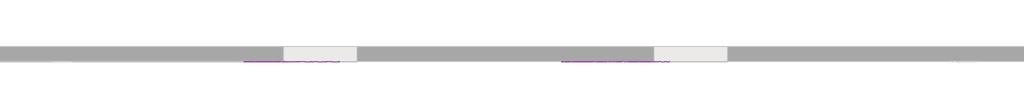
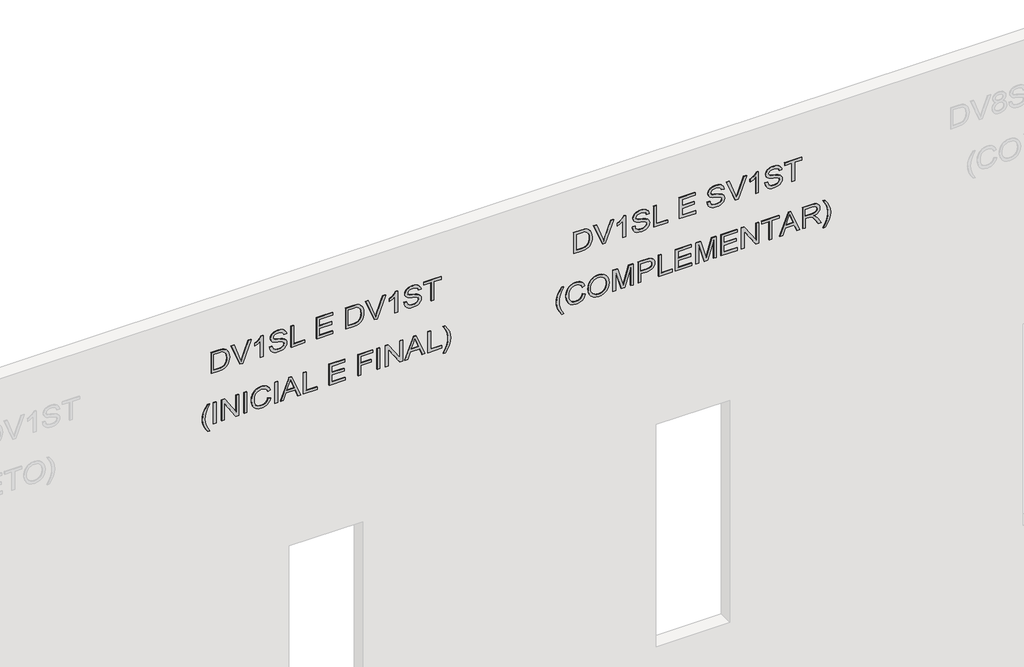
# One storey, part 2 of 4: 2 proxies.
"""IFC4 building model written with IfcOpenShell, lengths in millimetres."""

import ifcopenshell
import ifcopenshell.guid

model = None  # the IFC model being written
_history = None  # IfcOwnerHistory: only IFC2X3 demands one
_inside = {}  # id of a spatial element -> (the spatial element, [elements in it])
_under = {}  # id of a project, library or spatial element -> (it, [spatial elements below it])
_declared = {}  # id of a project -> (the project, [libraries it declares])
_typed = {}  # id of a type object -> (the type object, [elements of that type])
_made_of = {}  # id of a material, layer set ... -> (it, [elements and type objects made of it])


def new_model(schema):
    """Start an empty IFC model of exactly this schema.

    Asked for "IFC4X3", IfcOpenShell would pick the latest addendum, in which some entities
    have other attributes; the version numbers below select the first issue.
    IFC2X3 requires an IfcOwnerHistory on every rooted entity: one is made here for all.
    """
    global model, _history
    if schema == "IFC4X3":
        model = ifcopenshell.file(schema_version=(4, 3, 0, 0))
    else:
        model = ifcopenshell.file(schema=schema)
    _inside.clear()
    _under.clear()
    _declared.clear()
    _typed.clear()
    _made_of.clear()
    _history = None
    if model.schema == "IFC2X3":
        org = make("IfcOrganization", Name="unknown")
        user = make(
            "IfcPersonAndOrganization",
            ThePerson=make("IfcPerson", FamilyName="unknown"),
            TheOrganization=org,
        )
        app = make(
            "IfcApplication",
            ApplicationDeveloper=org,
            Version="unknown",
            ApplicationFullName="unknown",
            ApplicationIdentifier="unknown",
        )
        _history = make(
            "IfcOwnerHistory",
            OwningUser=user,
            OwningApplication=app,
            ChangeAction="ADDED",
            CreationDate=0,
        )
    return model


def make(cls, **values):
    """One entity of the class cls with the attributes given. An attribute that is None is left unset."""
    return model.create_entity(
        cls, **{name: value for name, value in values.items() if value is not None}
    )


def rooted(cls, **values):
    """An entity with a GlobalId (a new one), such as an element, a storey or a relation."""
    return make(cls, GlobalId=ifcopenshell.guid.new(), OwnerHistory=_history, **values)


def si_unit(unit_type, name, prefix=None):
    """IfcSIUnit, for example si_unit("LENGTHUNIT", "METRE", prefix="MILLI")."""
    return make("IfcSIUnit", UnitType=unit_type, Prefix=prefix, Name=name)


def assignment(units):
    """IfcUnitAssignment: the units of a project."""
    return None if units is None else make("IfcUnitAssignment", Units=units)


def point(xyz):
    """IfcCartesianPoint."""
    return None if xyz is None else make("IfcCartesianPoint", Coordinates=xyz)


def direction(xyz):
    """IfcDirection."""
    return None if xyz is None else make("IfcDirection", DirectionRatios=xyz)


def frame(location, z_axis=None, x_axis=None):
    """IfcAxis2Placement3D, a coordinate frame: its origin and axes. An axis left out is left unset."""
    return make(
        "IfcAxis2Placement3D",
        Location=point(location),
        Axis=direction(z_axis),
        RefDirection=direction(x_axis),
    )


def origin():
    """The frame at (0, 0, 0) with its axes left unset."""
    return frame((0.0, 0.0, 0.0))


def place(relative_to, where):
    """IfcLocalPlacement: puts the frame where relative to a parent placement (None: the world)."""
    return make(
        "IfcLocalPlacement", PlacementRelTo=relative_to, RelativePlacement=where
    )


def context(
    kind, dimensions, precision=None, world=None, true_north=None, identifier=None
):
    """IfcGeometricRepresentationContext, for example the 3D "Model" context."""
    return make(
        "IfcGeometricRepresentationContext",
        ContextIdentifier=identifier,
        ContextType=kind,
        CoordinateSpaceDimension=dimensions,
        Precision=precision,
        WorldCoordinateSystem=world,
        TrueNorth=true_north,
    )


def project(units=None, contexts=None):
    """IfcProject with its units and contexts."""
    return rooted(
        "IfcProject",
        Name="project",
        RepresentationContexts=contexts,
        UnitsInContext=assignment(units),
    )


def spatial(cls, under=None, at=None, **own):
    """A site, building, storey or space (cls), placed at a placement, below another one or the project."""
    s = rooted(cls, ObjectPlacement=at, **own)
    if under is not None:
        _under.setdefault(under.id(), (under, []))[1].append(s)
    return s


def polyline(points):
    """IfcPolyline through the points."""
    return make("IfcPolyline", Points=[point(p) for p in points])


def outline(outer, holes=None, kind="AREA"):
    """IfcArbitraryClosedProfileDef: a profile drawn as a closed curve; with holes, ...WithVoids."""
    if holes is None:
        return make("IfcArbitraryClosedProfileDef", ProfileType=kind, OuterCurve=outer)
    return make(
        "IfcArbitraryProfileDefWithVoids",
        ProfileType=kind,
        OuterCurve=outer,
        InnerCurves=holes,
    )


def extrude(swept, where, along, depth):
    """IfcExtrudedAreaSolid: the profile swept, set in the frame where, extruded along a direction by depth."""
    return make(
        "IfcExtrudedAreaSolid",
        SweptArea=swept,
        Position=where,
        ExtrudedDirection=direction(along),
        Depth=depth,
    )


def shape(context_of_items, identifier, shape_type, items):
    """IfcShapeRepresentation: the items that make up one representation, for example the "Body"."""
    return make(
        "IfcShapeRepresentation",
        ContextOfItems=context_of_items,
        RepresentationIdentifier=identifier,
        RepresentationType=shape_type,
        Items=items,
    )


def made_of(thing, what):
    """Note that an element or type object is made of a material, layer set ...; save() writes the relation."""
    if what is not None:
        _made_of.setdefault(what.id(), (what, []))[1].append(thing)
    return thing


def element(
    cls,
    number,
    at=None,
    inside=None,
    cuts=None,
    type_object=None,
    material=None,
    context=None,
    identifier="Body",
    shape_type=None,
    held_by="IfcProductDefinitionShape",
    body=None,
    shapes=None,
    **own,
):
    """One element of the class cls, such as IfcWall. Its Tag is "e" and its number.

    at: its placement. inside: the storey or other place that contains it. cuts: it is an
    opening in that element (IfcRelVoidsElement). A single representation is given by context,
    identifier, shape_type and body (its items); several are given by shapes. held_by: the class
    of the entity that holds the representations. save() writes the other relations.
    """
    e = rooted(cls, Tag="e%d" % number, ObjectPlacement=at, **own)
    if body is not None:
        shapes = [shape(context, identifier, shape_type, body)]
    if shapes is not None:
        e.Representation = make(held_by, Representations=shapes)
    if inside is not None:
        _inside.setdefault(inside.id(), (inside, []))[1].append(e)
    if cuts is not None:
        rooted(
            "IfcRelVoidsElement", RelatingBuildingElement=cuts, RelatedOpeningElement=e
        )
    if type_object is not None:
        _typed.setdefault(type_object.id(), (type_object, []))[1].append(e)
    return made_of(e, material)


def aggregate(whole, parts):
    """IfcRelAggregates: a whole, such as a stair, and the parts it consists of."""
    return rooted("IfcRelAggregates", RelatingObject=whole, RelatedObjects=parts)


def save(model, path):
    """Write the relations noted so far, then the file.

    IfcRelAggregates (storeys below a building ...), IfcRelContainedInSpatialStructure (elements
    in a storey), IfcRelDefinesByType, IfcRelAssociatesMaterial and IfcRelDeclares: one each for
    every whole, place, type object, material and project.
    """
    for whole, parts in _under.values():
        aggregate(whole, parts)
    for where, things in _inside.values():
        rooted(
            "IfcRelContainedInSpatialStructure",
            RelatedElements=things,
            RelatingStructure=where,
        )
    for kind, things in _typed.values():
        rooted("IfcRelDefinesByType", RelatedObjects=things, RelatingType=kind)
    for what, things in _made_of.values():
        rooted("IfcRelAssociatesMaterial", RelatedObjects=things, RelatingMaterial=what)
    for by, libraries in _declared.values():
        rooted("IfcRelDeclares", RelatingContext=by, RelatedDefinitions=libraries)
    model.write(path)


model = new_model("IFC4")

# Units and contexts
model_context = context("Model", 3, world=origin())
ifc_project = project(units=[si_unit("LENGTHUNIT", "METRE", prefix="MILLI")], contexts=[model_context])

# Site, building, storey
site = spatial("IfcSite", under=ifc_project)
building = spatial("IfcBuilding", under=site)
storey = spatial("IfcBuildingStorey", under=building, Name="01 - Marelli - Planta Baixa - Painel Simples", Elevation=0.0)

# Proxies
placement = place(None, origin())
element("IfcBuildingElementProxy", 1, Name="300mm Arial", ObjectType="300mm Arial", at=placement, inside=storey, context=model_context, shape_type="SweptSolid", body=[
    extrude(outline(polyline([(6065.9244535, 7245.7423947), (6065.9244535, 7354.7090417), (6071.0748015, 7403.1591004), (6077.4299629, 7422.7028314), (6086.1947515, 7439.1747477), (6098.0129606, 7453.5221456), (6113.5283837, 7466.692321), (6133.1824793, 7478.133451), (6157.4167057, 7487.2937127), (6185.8815751, 7493.3085833), (6218.2275995, 7495.3135402), (6256.303386, 7492.3520901), (6289.8910122, 7483.46774), (6318.438655, 7468.6237015), (6341.3944915, 7447.7831864), (6354.5830611, 7427.5128885), (6362.9523764, 7403.4901942), (6367.293384, 7349.7058465), (6367.293384, 7245.7423947), (6065.9244535, 7245.7423947)]), holes=[polyline([(6103.5955698, 7283.413511), (6329.6222677, 7283.413511), (6329.6222677, 7349.0436589), (6328.1139515, 7380.7918751), (6323.589003, 7402.4601246), (6311.0074387, 7423.7512951), (6290.1853178, 7441.5659807), (6259.8718414, 7453.6233131), (6218.8162107, 7457.6424239), (6187.8313497, 7455.5914818), (6161.8312897, 7449.4386554), (6140.7240602, 7439.6070091), (6124.4176908, 7426.5196071), (6115.606917, 7414.3427131), (6109.0402234, 7398.5605755), (6104.9567332, 7377.6464841), (6103.5955698, 7350.0737285), (6103.5955698, 7283.413511)])]), frame((0.0, 8778.3159498, 0.0), z_axis=(0.0, 1.0, 0.0), x_axis=(0.0, 0.0, 1.0)), (0.0, 0.0, 1.0), 10.0),
    extrude(outline(polyline([(6065.9244535, 7636.138768), (6065.9244535, 7675.0606831), (6367.293384, 7789.9134419), (6367.293384, 7749.5935753), (6150.1694304, 7669.1009947), (6101.2411251, 7653.0613397), (6150.1694304, 7636.8009556), (6367.293384, 7556.5291042), (6367.293384, 7516.2092375), (6065.9244535, 7636.138768)])), frame((0.0, 8778.3159498, 0.0), z_axis=(0.0, 1.0, 0.0), x_axis=(0.0, 0.0, 1.0)), (0.0, 0.0, 1.0), 10.0),
    extrude(outline(polyline([(6065.9244535, 7952.0758254), (6367.293384, 7952.0758254), (6367.293384, 7927.7956137), (6347.5565149, 7914.4874826), (6327.1942465, 7894.281564), (6308.0459887, 7868.649386), (6291.9511514, 7839.0624765), (6256.3401742, 7839.0624765), (6275.3596734, 7878.7201556), (6300.7803193, 7914.4047091), (6065.9244535, 7914.4047091), (6065.9244535, 7952.0758254)])), frame((0.0, 8778.3159498, 0.0), z_axis=(0.0, 1.0, 0.0), x_axis=(0.0, 0.0, 1.0)), (0.0, 0.0, 1.0), 10.0),
    extrude(outline(polyline([(6169.5200234, 8041.5447266), (6139.0961824, 8046.0144929), (6111.9832793, 8057.8051108), (6089.7264186, 8076.1716194), (6073.8707046, 8100.3690577), (6064.3793492, 8130.7469134), (6061.215564, 8167.6546746), (6064.1494229, 8197.7198307), (6072.9509996, 8224.6395956), (6087.0408801, 8247.0252151), (6105.83965, 8263.4879343), (6127.6826435, 8273.6138863), (6150.9051944, 8276.9892036), (6173.6219076, 8274.0553447), (6193.5059295, 8265.2537679), (6210.3733189, 8250.2717737), (6224.0401351, 8228.7966622), (6232.8509088, 8203.6703219), (6242.9492696, 8162.1364447), (6253.5810593, 8121.8901544), (6263.9921197, 8100.6265751), (6275.6355849, 8091.6318603), (6290.1117414, 8088.633622), (6307.0894955, 8092.864265), (6321.381711, 8105.5561938), (6331.0937957, 8127.5003548), (6334.3311572, 8159.4876943), (6331.0570075, 8190.7392698), (6321.2345582, 8213.272042), (6305.0109622, 8227.6930162), (6282.5333723, 8234.6091977), (6282.5333723, 8272.280314), (6307.4941657, 8268.031277), (6329.6958441, 8257.344305), (6347.9979733, 8240.4585214), (6361.2601193, 8217.6130495), (6369.316735, 8189.8011707), (6372.0022735, 8158.0161663), (6369.4362966, 8128.6775772), (6361.7383659, 8102.1716795), (6349.0832252, 8080.0895627), (6331.6456187, 8064.0223166), (6311.0718181, 8054.2274584), (6289.0080954, 8050.9625057), (6269.2712264, 8053.602059), (6251.5577083, 8061.520719), (6236.198635, 8074.8104561), (6223.5251003, 8093.5632408), (6214.4660061, 8116.6018507), (6204.9470595, 8152.608301), (6190.5628735, 8207.4595065), (6182.7545782, 8223.5359497), (6173.4563607, 8233.0640933), (6162.5578566, 8237.7545888), (6149.9487012, 8239.3180873), (6137.0084521, 8237.2303569), (6124.6752082, 8230.967166), (6113.9330539, 8220.4365439), (6105.7660736, 8205.5465201), (6100.6065286, 8187.1708144), (6098.8866803, 8166.1831466), (6101.1583516, 8142.3443933), (6107.9733656, 8121.0072376), (6118.4763965, 8103.5512369), (6131.8121189, 8091.3559488), (6148.615129, 8083.5384564), (6169.5200234, 8079.215843), (6169.5200234, 8041.5447266)])), frame((0.0, 8778.3159498, 0.0), z_axis=(0.0, 1.0, 0.0), x_axis=(0.0, 0.0, 1.0)), (0.0, 0.0, 1.0), 10.0),
    extrude(outline(polyline([(6065.9244535, 8333.495878), (6065.9244535, 8521.8514596), (6103.5955698, 8521.8514596), (6103.5955698, 8371.1669943), (6367.293384, 8371.1669943), (6367.293384, 8333.495878), (6065.9244535, 8333.495878)])), frame((0.0, 8778.3159498, 0.0), z_axis=(0.0, 1.0, 0.0), x_axis=(0.0, 0.0, 1.0)), (0.0, 0.0, 1.0), 10.0),
    extrude(outline(polyline([(6065.9244535, 8681.9537039), (6065.9244535, 8903.2715122), (6103.5955698, 8903.2715122), (6103.5955698, 8719.6248202), (6202.4822501, 8719.6248202), (6202.4822501, 8889.1448435), (6240.1533665, 8889.1448435), (6240.1533665, 8719.6248202), (6329.6222677, 8719.6248202), (6329.6222677, 8898.5626226), (6367.293384, 8898.5626226), (6367.293384, 8681.9537039), (6065.9244535, 8681.9537039)])), frame((0.0, 8778.3159498, 0.0), z_axis=(0.0, 1.0, 0.0), x_axis=(0.0, 0.0, 1.0)), (0.0, 0.0, 1.0), 10.0),
    extrude(outline(polyline([(6169.5200234, 9063.3737565), (6139.0961824, 9067.8435227), (6111.9832793, 9079.6341406), (6089.7264186, 9098.0006492), (6073.8707046, 9122.1980875), (6064.3793492, 9152.5759432), (6061.215564, 9189.4837044), (6064.1494229, 9219.5488605), (6072.9509996, 9246.4686255), (6087.0408801, 9268.8542449), (6105.83965, 9285.3169641), (6127.6826435, 9295.4429161), (6150.9051944, 9298.8182334), (6173.6219076, 9295.8843745), (6193.5059295, 9287.0827977), (6210.3733189, 9272.1008035), (6224.0401351, 9250.625692), (6232.8509088, 9225.4993517), (6242.9492696, 9183.9654745), (6253.5810593, 9143.7191842), (6263.9921197, 9122.4556049), (6275.6355849, 9113.4608901), (6290.1117414, 9110.4626518), (6307.0894955, 9114.6932948), (6321.381711, 9127.3852236), (6331.0937957, 9149.3293846), (6334.3311572, 9181.3167241), (6331.0570075, 9212.5682996), (6321.2345582, 9235.1010718), (6305.0109622, 9249.522046), (6282.5333723, 9256.4382275), (6282.5333723, 9294.1093438), (6307.4941657, 9289.8603068), (6329.6958441, 9279.1733348), (6347.9979733, 9262.2875512), (6361.2601193, 9239.4420793), (6369.316735, 9211.6302005), (6372.0022735, 9179.8451961), (6369.4362966, 9150.506607), (6361.7383659, 9124.0007093), (6349.0832252, 9101.9185925), (6331.6456187, 9085.8513464), (6311.0718181, 9076.0564882), (6289.0080954, 9072.7915355), (6269.2712264, 9075.4310888), (6251.5577083, 9083.3497488), (6236.198635, 9096.6394859), (6223.5251003, 9115.3922706), (6214.4660061, 9138.4308805), (6204.9470595, 9174.4373308), (6190.5628735, 9229.2885363), (6182.7545782, 9245.3649795), (6173.4563607, 9254.8931231), (6162.5578566, 9259.5836186), (6149.9487012, 9261.1471171), (6137.0084521, 9259.0593867), (6124.6752082, 9252.7961958), (6113.9330539, 9242.2655737), (6105.7660736, 9227.3755499), (6100.6065286, 9208.9998442), (6098.8866803, 9188.0121764), (6101.1583516, 9164.1734231), (6107.9733656, 9142.8362674), (6118.4763965, 9125.3802667), (6131.8121189, 9113.1849786), (6148.615129, 9105.3674862), (6169.5200234, 9101.0448728), (6169.5200234, 9063.3737565)])), frame((0.0, 8778.3159498, 0.0), z_axis=(0.0, 1.0, 0.0), x_axis=(0.0, 0.0, 1.0)), (0.0, 0.0, 1.0), 10.0),
    extrude(outline(polyline([(6065.9244535, 9444.3523507), (6065.9244535, 9483.2742657), (6367.293384, 9598.1270246), (6367.293384, 9557.807158), (6150.1694304, 9477.3145774), (6101.2411251, 9461.2749224), (6150.1694304, 9445.0145382), (6367.293384, 9364.7426869), (6367.293384, 9324.4228202), (6065.9244535, 9444.3523507)])), frame((0.0, 8778.3159498, 0.0), z_axis=(0.0, 1.0, 0.0), x_axis=(0.0, 0.0, 1.0)), (0.0, 0.0, 1.0), 10.0),
    extrude(outline(polyline([(6065.9244535, 9760.2894081), (6367.293384, 9760.2894081), (6367.293384, 9736.0091964), (6347.5565149, 9722.7010653), (6327.1942465, 9702.4951467), (6308.0459887, 9676.8629687), (6291.9511514, 9647.2760592), (6256.3401742, 9647.2760592), (6275.3596734, 9686.9337383), (6300.7803193, 9722.6182918), (6065.9244535, 9722.6182918), (6065.9244535, 9760.2894081)])), frame((0.0, 8778.3159498, 0.0), z_axis=(0.0, 1.0, 0.0), x_axis=(0.0, 0.0, 1.0)), (0.0, 0.0, 1.0), 10.0),
    extrude(outline(polyline([(6169.5200234, 9849.7583093), (6139.0961824, 9854.2280756), (6111.9832793, 9866.0186935), (6089.7264186, 9884.3852021), (6073.8707046, 9908.5826404), (6064.3793492, 9938.9604961), (6061.215564, 9975.8682573), (6064.1494229, 10005.9334133), (6072.9509996, 10032.8531783), (6087.0408801, 10055.2387977), (6105.83965, 10071.701517), (6127.6826435, 10081.8274689), (6150.9051944, 10085.2027863), (6173.6219076, 10082.2689273), (6193.5059295, 10073.4673506), (6210.3733189, 10058.4853564), (6224.0401351, 10037.0102449), (6232.8509088, 10011.8839046), (6242.9492696, 9970.3500274), (6253.5810593, 9930.1037371), (6263.9921197, 9908.8401578), (6275.6355849, 9899.845443), (6290.1117414, 9896.8472047), (6307.0894955, 9901.0778477), (6321.381711, 9913.7697765), (6331.0937957, 9935.7139375), (6334.3311572, 9967.701277), (6331.0570075, 9998.9528525), (6321.2345582, 10021.4856247), (6305.0109622, 10035.9065989), (6282.5333723, 10042.8227804), (6282.5333723, 10080.4938967), (6307.4941657, 10076.2448597), (6329.6958441, 10065.5578877), (6347.9979733, 10048.6721041), (6361.2601193, 10025.8266322), (6369.316735, 9998.0147534), (6372.0022735, 9966.229749), (6369.4362966, 9936.8911599), (6361.7383659, 9910.3852621), (6349.0832252, 9888.3031454), (6331.6456187, 9872.2358992), (6311.0718181, 9862.4410411), (6289.0080954, 9859.1760884), (6269.2712264, 9861.8156417), (6251.5577083, 9869.7343017), (6236.198635, 9883.0240388), (6223.5251003, 9901.7768235), (6214.4660061, 9924.8154334), (6204.9470595, 9960.8218837), (6190.5628735, 10015.6730892), (6182.7545782, 10031.7495324), (6173.4563607, 10041.277676), (6162.5578566, 10045.9681715), (6149.9487012, 10047.5316699), (6137.0084521, 10045.4439396), (6124.6752082, 10039.1807487), (6113.9330539, 10028.6501265), (6105.7660736, 10013.7601028), (6100.6065286, 9995.3843971), (6098.8866803, 9974.3967293), (6101.1583516, 9950.557976), (6107.9733656, 9929.2208203), (6118.4763965, 9911.7648196), (6131.8121189, 9899.5695315), (6148.615129, 9891.7520391), (6169.5200234, 9887.4294256), (6169.5200234, 9849.7583093)])), frame((0.0, 8778.3159498, 0.0), z_axis=(0.0, 1.0, 0.0), x_axis=(0.0, 0.0, 1.0)), (0.0, 0.0, 1.0), 10.0),
    extrude(outline(polyline([(6065.9244535, 10217.0516933), (6065.9244535, 10254.7228096), (6329.6222677, 10254.7228096), (6329.6222677, 10353.6094899), (6367.293384, 10353.6094899), (6367.293384, 10118.165013), (6329.6222677, 10118.165013), (6329.6222677, 10217.0516933), (6065.9244535, 10217.0516933)])), frame((0.0, 8778.3159498, 0.0), z_axis=(0.0, 1.0, 0.0), x_axis=(0.0, 0.0, 1.0)), (0.0, 0.0, 1.0), 10.0),
    extrude(outline(polyline([(5249.3155348, 7080.9312608), (5249.3155348, 7109.1845981), (5297.5540614, 7080.3426497), (5345.8109821, 7059.7412579), (5394.0862969, 7047.3804229), (5442.3800058, 7043.2601445), (5480.2534572, 7045.6329834), (5517.9429677, 7052.7515), (5575.7740173, 7073.9415029), (5635.4444769, 7109.1845981), (5635.4444769, 7080.9312608), (5584.934279, 7046.2399887), (5534.2033518, 7021.9229888), (5489.4137189, 7009.6725184), (5442.600735, 7005.5890282), (5389.2210575, 7011.0520759), (5337.68079, 7027.4412187), (5290.2791949, 7051.7398245), (5249.3155348, 7080.9312608)])), frame((0.0, 8778.3159498, 0.0), z_axis=(0.0, 1.0, 0.0), x_axis=(0.0, 0.0, 1.0)), (0.0, 0.0, 1.0), 10.0),
    extrude(outline(polyline([(5441.2027835, 7363.4646331), (5408.9395325, 7351.278542), (5385.7261786, 7331.4956878), (5371.7098746, 7305.2932927), (5367.0377732, 7273.8485791), (5370.4682728, 7246.8736318), (5380.7597717, 7221.8668532), (5397.9858461, 7201.0079441), (5422.2200725, 7186.4766053), (5452.3128197, 7177.95094), (5487.1144565, 7175.1090516), (5515.5333406, 7177.5094816), (5543.1060961, 7184.7107717), (5567.4966724, 7197.8349619), (5586.3690188, 7218.0040922), (5598.4539423, 7244.5835664), (5602.4822501, 7276.9387879), (5598.8494154, 7305.0081841), (5587.9509113, 7327.853656), (5569.1061561, 7345.6959328), (5541.6345681, 7358.7557436), (5550.6108888, 7396.4268599), (5588.4291579, 7379.7893967), (5603.751443, 7367.9872824), (5616.6824952, 7353.8629131), (5626.9510013, 7337.6830031), (5634.2856486, 7319.7142669), (5640.1533665, 7278.4103159), (5635.6192209, 7240.5552586), (5622.0167841, 7206.0111392), (5599.6771499, 7176.8840822), (5568.9314122, 7155.2802121), (5530.9843844, 7141.8985045), (5487.0408801, 7137.4379353), (5445.3782441, 7141.3834697), (5406.4747231, 7153.2200729), (5373.3837376, 7172.607454), (5349.1587083, 7199.2053223), (5334.3146698, 7233.9057915), (5329.3666569, 7277.6009755), (5331.0014325, 7300.0233831), (5335.9057594, 7320.6431689), (5344.0796375, 7339.460333), (5355.5230668, 7356.4748752), (5370.0796975, 7371.3511034), (5387.5931797, 7383.7533252), (5408.0635135, 7393.6815405), (5431.4906988, 7401.1357494), (5441.2027835, 7363.4646331)])), frame((0.0, 8778.3159498, 0.0), z_axis=(0.0, 1.0, 0.0), x_axis=(0.0, 0.0, 1.0)), (0.0, 0.0, 1.0), 10.0),
    extrude(outline(polyline([(5480.7868861, 7438.8068658), (5442.2420501, 7443.1110851), (5405.7757473, 7456.0237431), (5374.0827134, 7477.2873224), (5349.8576841, 7506.6443057), (5334.4894137, 7542.292071), (5329.3666569, 7582.4279967), (5334.0019701, 7620.2370687), (5347.9079095, 7655.3789963), (5370.8269578, 7685.3429848), (5402.5015976, 7707.6182396), (5440.9636602, 7721.4414056), (5484.2449769, 7726.0491276), (5526.9560765, 7721.6713318), (5564.8847102, 7708.5379446), (5596.5041677, 7687.0536361), (5620.2877387, 7657.6230765), (5635.1869595, 7622.1776462), (5640.1533665, 7582.6487259), (5637.5092146, 7552.3582421), (5629.5767591, 7524.9832231), (5616.3559999, 7500.523669), (5597.846937, 7478.9795796), (5574.6657728, 7461.4040173), (5547.4287096, 7448.8500442), (5516.1357474, 7441.3176604), (5480.7868861, 7438.8068658)]), holes=[polyline([(5480.4190041, 7476.4779821), (5510.955509, 7478.4415522), (5536.7877229, 7484.3322627), (5557.9156457, 7494.1501134), (5574.3392775, 7507.8951044), (5586.651828, 7524.3624223), (5595.446507, 7542.3472533), (5600.7233144, 7561.8495976), (5602.4822501, 7582.8694551), (5598.8310213, 7612.0333002), (5587.8773349, 7638.1621189), (5570.2833785, 7659.8211714), (5546.7113397, 7675.5757178), (5517.8877854, 7685.1774379), (5484.5392825, 7688.3780113), (5458.0011951, 7686.5087109), (5434.672878, 7680.9008097), (5414.5543314, 7671.5543078), (5397.6455552, 7658.4692051), (5384.2546506, 7642.4870316), (5374.6897187, 7624.4493176), (5368.9507596, 7604.3560628), (5367.0377732, 7582.2072675), (5368.9323655, 7560.4309526), (5374.6161423, 7540.5722227), (5384.0891037, 7522.6310776), (5397.3512496, 7506.6075175), (5413.9105379, 7493.4258457), (5433.2749265, 7484.0103659), (5455.4444152, 7478.361078), (5480.4190041, 7476.4779821)])]), frame((0.0, 8778.3159498, 0.0), z_axis=(0.0, 1.0, 0.0), x_axis=(0.0, 0.0, 1.0)), (0.0, 0.0, 1.0), 10.0),
    extrude(outline(polyline([(5334.0755465, 7777.8469125), (5334.0755465, 7815.5180288), (5597.7733606, 7815.5180288), (5334.0755465, 7891.2281434), (5334.0755465, 7942.2901644), (5597.7733606, 8018.000279), (5334.0755465, 8018.000279), (5334.0755465, 8055.6713953), (5635.4444769, 8055.6713953), (5635.4444769, 7990.8505877), (5426.7082328, 7930.2236349), (5378.6628443, 7916.7591539), (5423.0294129, 7904.3247424), (5635.4444769, 7842.6677201), (5635.4444769, 7777.8469125), (5334.0755465, 7777.8469125)])), frame((0.0, 8778.3159498, 0.0), z_axis=(0.0, 1.0, 0.0), x_axis=(0.0, 0.0, 1.0)), (0.0, 0.0, 1.0), 10.0),
    extrude(outline(polyline([(5334.0755465, 8121.5958488), (5334.0755465, 8159.2669651), (5456.5066745, 8159.2669651), (5456.5066745, 8235.8599965), (5458.1713405, 8265.0583306), (5463.1653386, 8289.3776298), (5471.4886687, 8308.8178939), (5483.1413309, 8323.3791232), (5497.1990217, 8333.9856209), (5512.7374374, 8341.5616908), (5529.7565782, 8346.1073327), (5548.2564441, 8347.6225466), (5569.7131614, 8345.3784665), (5589.3488629, 8338.646226), (5605.9955232, 8328.2259684), (5618.4851169, 8314.9178373), (5627.2131173, 8298.3907386), (5632.5749974, 8278.3135787), (5635.4444769, 8233.2848225), (5635.4444769, 8121.5958488), (5334.0755465, 8121.5958488)]), holes=[polyline([(5494.1777908, 8159.2669651), (5597.7733606, 8159.2669651), (5597.7733606, 8237.1843717), (5595.1981866, 8274.855488), (5588.8706163, 8289.0833242), (5578.1284621, 8300.2761339), (5563.8546407, 8307.5326062), (5546.9320689, 8309.9514303), (5524.6568141, 8305.8495461), (5508.0101538, 8293.5438933), (5497.6358815, 8271.4709736), (5494.1777908, 8238.0672885), (5494.1777908, 8159.2669651)])]), frame((0.0, 8778.3159498, 0.0), z_axis=(0.0, 1.0, 0.0), x_axis=(0.0, 0.0, 1.0)), (0.0, 0.0, 1.0), 10.0),
    extrude(outline(polyline([(5334.0755465, 8399.4203316), (5334.0755465, 8587.7759131), (5371.7466628, 8587.7759131), (5371.7466628, 8437.0914479), (5635.4444769, 8437.0914479), (5635.4444769, 8399.4203316), (5334.0755465, 8399.4203316)])), frame((0.0, 8778.3159498, 0.0), z_axis=(0.0, 1.0, 0.0), x_axis=(0.0, 0.0, 1.0)), (0.0, 0.0, 1.0), 10.0),
    extrude(outline(polyline([(5334.0755465, 8630.1559189), (5334.0755465, 8851.4737272), (5371.7466628, 8851.4737272), (5371.7466628, 8667.8270352), (5470.6333431, 8667.8270352), (5470.6333431, 8837.3470586), (5508.3044594, 8837.3470586), (5508.3044594, 8667.8270352), (5597.7733606, 8667.8270352), (5597.7733606, 8846.7648377), (5635.4444769, 8846.7648377), (5635.4444769, 8630.1559189), (5334.0755465, 8630.1559189)])), frame((0.0, 8778.3159498, 0.0), z_axis=(0.0, 1.0, 0.0), x_axis=(0.0, 0.0, 1.0)), (0.0, 0.0, 1.0), 10.0),
    extrude(outline(polyline([(5334.0755465, 8907.9804017), (5334.0755465, 8945.651518), (5597.7733606, 8945.651518), (5334.0755465, 9021.3616326), (5334.0755465, 9072.4236535), (5597.7733606, 9148.1337681), (5334.0755465, 9148.1337681), (5334.0755465, 9185.8048844), (5635.4444769, 9185.8048844), (5635.4444769, 9120.9840769), (5426.7082328, 9060.3571241), (5378.6628443, 9046.8926431), (5423.0294129, 9034.4582316), (5635.4444769, 8972.8012092), (5635.4444769, 8907.9804017), (5334.0755465, 8907.9804017)])), frame((0.0, 8778.3159498, 0.0), z_axis=(0.0, 1.0, 0.0), x_axis=(0.0, 0.0, 1.0)), (0.0, 0.0, 1.0), 10.0),
    extrude(outline(polyline([(5334.0755465, 9251.729338), (5334.0755465, 9473.0471463), (5371.7466628, 9473.0471463), (5371.7466628, 9289.4004543), (5470.6333431, 9289.4004543), (5470.6333431, 9458.9204777), (5508.3044594, 9458.9204777), (5508.3044594, 9289.4004543), (5597.7733606, 9289.4004543), (5597.7733606, 9468.3382567), (5635.4444769, 9468.3382567), (5635.4444769, 9251.729338), (5334.0755465, 9251.729338)])), frame((0.0, 8778.3159498, 0.0), z_axis=(0.0, 1.0, 0.0), x_axis=(0.0, 0.0, 1.0)), (0.0, 0.0, 1.0), 10.0),
    extrude(outline(polyline([(5334.0755465, 9529.5538207), (5334.0755465, 9567.224937), (5572.9045377, 9567.224937), (5334.0755465, 9724.678431), (5334.0755465, 9764.9982977), (5635.4444769, 9764.9982977), (5635.4444769, 9727.3271813), (5396.689062, 9727.3271813), (5635.4444769, 9569.8736874), (5635.4444769, 9529.5538207), (5334.0755465, 9529.5538207)])), frame((0.0, 8778.3159498, 0.0), z_axis=(0.0, 1.0, 0.0), x_axis=(0.0, 0.0, 1.0)), (0.0, 0.0, 1.0), 10.0),
    extrude(outline(polyline([(5334.0755465, 9906.2649838), (5334.0755465, 9943.9361001), (5597.7733606, 9943.9361001), (5597.7733606, 10042.8227804), (5635.4444769, 10042.8227804), (5635.4444769, 9807.3783035), (5597.7733606, 9807.3783035), (5597.7733606, 9906.2649838), (5334.0755465, 9906.2649838)])), frame((0.0, 8778.3159498, 0.0), z_axis=(0.0, 1.0, 0.0), x_axis=(0.0, 0.0, 1.0)), (0.0, 0.0, 1.0), 10.0),
    extrude(outline(polyline([(5334.0755465, 10050.1068439), (5334.0755465, 10089.9116758), (5428.2533372, 10124.3454305), (5428.2533372, 10248.4688157), (5334.0755465, 10282.9761469), (5334.0755465, 10322.7809787), (5635.4444769, 10202.4835663), (5635.4444769, 10170.4042563), (5334.0755465, 10050.1068439)]), holes=[polyline([(5465.9244535, 10138.1777936), (5546.4906105, 10167.6819296), (5597.7733606, 10186.4439113), (5540.0158874, 10207.5603379), (5465.9244535, 10234.7100291), (5465.9244535, 10138.1777936)])]), frame((0.0, 8778.3159498, 0.0), z_axis=(0.0, 1.0, 0.0), x_axis=(0.0, 0.0, 1.0)), (0.0, 0.0, 1.0), 10.0),
    extrude(outline(polyline([(5334.0755465, 10363.027269), (5334.0755465, 10400.6983853), (5465.9244535, 10400.6983853), (5465.9244535, 10446.1685999), (5464.6000784, 10468.0207904), (5457.4263794, 10485.9366436), (5437.8918455, 10505.8390595), (5396.5419092, 10534.1659732), (5334.0755465, 10573.3821939), (5334.0755465, 10617.1601513), (5415.7453494, 10566.9074707), (5454.5201117, 10536.3732651), (5470.6333431, 10514.962533), (5480.6213392, 10552.0726293), (5488.6365682, 10566.454516), (5498.6659511, 10578.0542952), (5523.2772566, 10593.3673832), (5552.9653336, 10598.4717459), (5576.831678, 10595.3907342), (5598.5459128, 10586.1476991), (5616.0570958, 10571.745119), (5627.3142848, 10553.1854723), (5633.4119289, 10527.7924176), (5635.4444769, 10492.8896133), (5635.4444769, 10363.027269), (5334.0755465, 10363.027269)]), holes=[polyline([(5503.5955698, 10400.6983853), (5597.7733606, 10400.6983853), (5597.7733606, 10494.5082941), (5594.5176049, 10524.3159327), (5584.750338, 10544.8713392), (5569.9430877, 10556.818307), (5551.567382, 10560.8006296), (5538.2592508, 10558.7128993), (5525.9995833, 10552.4497083), (5515.8644344, 10542.1674066), (5508.9298588, 10528.0223438), (5504.9291421, 10509.2327709), (5503.5955698, 10485.0169386), (5503.5955698, 10400.6983853)])]), frame((0.0, 8778.3159498, 0.0), z_axis=(0.0, 1.0, 0.0), x_axis=(0.0, 0.0, 1.0)), (0.0, 0.0, 1.0), 10.0),
    extrude(outline(polyline([(5249.3155348, 10669.105089), (5290.2791949, 10698.1585696), (5337.68079, 10722.4847665), (5389.2210575, 10738.9566828), (5442.600735, 10744.4473216), (5489.4137189, 10740.3638315), (5534.2033518, 10728.113361), (5584.934279, 10703.7963611), (5635.4444769, 10669.105089), (5635.4444769, 10640.8517518), (5575.1854061, 10676.3155761), (5546.8400984, 10688.290135), (5517.2807801, 10697.2848498), (5479.9775458, 10704.4033664), (5442.3800058, 10706.7762053), (5394.0862969, 10702.655927), (5345.8109821, 10690.2950919), (5297.5540614, 10669.6937002), (5249.3155348, 10640.8517518), (5249.3155348, 10669.105089)])), frame((0.0, 8778.3159498, 0.0), z_axis=(0.0, 1.0, 0.0), x_axis=(0.0, 0.0, 1.0)), (0.0, 0.0, 1.0), 10.0),
])
element("IfcBuildingElementProxy", 2, Name="300mm Arial", ObjectType="300mm Arial", at=placement, inside=storey, context=model_context, shape_type="SweptSolid", body=[
    extrude(outline(polyline([(6065.9244535, 2304.6035139), (6065.9244535, 2413.5701609), (6071.0748015, 2462.0202196), (6077.4299629, 2481.5639506), (6086.1947515, 2498.035867), (6098.0129606, 2512.3832648), (6113.5283837, 2525.5534402), (6133.1824793, 2536.9945703), (6157.4167057, 2546.1548319), (6185.8815751, 2552.1697026), (6218.2275995, 2554.1746594), (6256.303386, 2551.2132094), (6289.8910122, 2542.3288592), (6318.438655, 2527.4848207), (6341.3944915, 2506.6443057), (6354.5830611, 2486.3740077), (6362.9523764, 2462.3513134), (6367.293384, 2408.5669657), (6367.293384, 2304.6035139), (6065.9244535, 2304.6035139)]), holes=[polyline([(6103.5955698, 2342.2746302), (6329.6222677, 2342.2746302), (6329.6222677, 2407.9047782), (6328.1139515, 2439.6529943), (6323.589003, 2461.3212439), (6311.0074387, 2482.6124143), (6290.1853178, 2500.4270999), (6259.8718414, 2512.4844323), (6218.8162107, 2516.5035431), (6187.8313497, 2514.452601), (6161.8312897, 2508.2997746), (6140.7240602, 2498.4681283), (6124.4176908, 2485.3807263), (6115.606917, 2473.2038323), (6109.0402234, 2457.4216947), (6104.9567332, 2436.5076033), (6103.5955698, 2408.9348477), (6103.5955698, 2342.2746302)])]), frame((0.0, 8778.3159498, 0.0), z_axis=(0.0, 1.0, 0.0), x_axis=(0.0, 0.0, 1.0)), (0.0, 0.0, 1.0), 10.0),
    extrude(outline(polyline([(6065.9244535, 2694.9998872), (6065.9244535, 2733.9218023), (6367.293384, 2848.7745612), (6367.293384, 2808.4546945), (6150.1694304, 2727.962114), (6101.2411251, 2711.922459), (6150.1694304, 2695.6620748), (6367.293384, 2615.3902234), (6367.293384, 2575.0703568), (6065.9244535, 2694.9998872)])), frame((0.0, 8778.3159498, 0.0), z_axis=(0.0, 1.0, 0.0), x_axis=(0.0, 0.0, 1.0)), (0.0, 0.0, 1.0), 10.0),
    extrude(outline(polyline([(6065.9244535, 3010.9369447), (6367.293384, 3010.9369447), (6367.293384, 2986.656733), (6347.5565149, 2973.3486018), (6327.1942465, 2953.1426832), (6308.0459887, 2927.5105052), (6291.9511514, 2897.9235957), (6256.3401742, 2897.9235957), (6275.3596734, 2937.5812748), (6300.7803193, 2973.2658283), (6065.9244535, 2973.2658283), (6065.9244535, 3010.9369447)])), frame((0.0, 8778.3159498, 0.0), z_axis=(0.0, 1.0, 0.0), x_axis=(0.0, 0.0, 1.0)), (0.0, 0.0, 1.0), 10.0),
    extrude(outline(polyline([(6169.5200234, 3100.4058459), (6139.0961824, 3104.8756121), (6111.9832793, 3116.6662301), (6089.7264186, 3135.0327387), (6073.8707046, 3159.2301769), (6064.3793492, 3189.6080327), (6061.215564, 3226.5157938), (6064.1494229, 3256.5809499), (6072.9509996, 3283.5007149), (6087.0408801, 3305.8863343), (6105.83965, 3322.3490536), (6127.6826435, 3332.4750055), (6150.9051944, 3335.8503228), (6173.6219076, 3332.9164639), (6193.5059295, 3324.1148871), (6210.3733189, 3309.1328929), (6224.0401351, 3287.6577814), (6232.8509088, 3262.5314412), (6242.9492696, 3220.9975639), (6253.5810593, 3180.7512736), (6263.9921197, 3159.4876943), (6275.6355849, 3150.4929795), (6290.1117414, 3147.4947413), (6307.0894955, 3151.7253842), (6321.381711, 3164.417313), (6331.0937957, 3186.3614741), (6334.3311572, 3218.3488135), (6331.0570075, 3249.600389), (6321.2345582, 3272.1331612), (6305.0109622, 3286.5541354), (6282.5333723, 3293.4703169), (6282.5333723, 3331.1414333), (6307.4941657, 3326.8923962), (6329.6958441, 3316.2054242), (6347.9979733, 3299.3196407), (6361.2601193, 3276.4741688), (6369.316735, 3248.6622899), (6372.0022735, 3216.8772856), (6369.4362966, 3187.5386964), (6361.7383659, 3161.0327987), (6349.0832252, 3138.9506819), (6331.6456187, 3122.8834358), (6311.0718181, 3113.0885777), (6289.0080954, 3109.823625), (6269.2712264, 3112.4631783), (6251.5577083, 3120.3818382), (6236.198635, 3133.6715753), (6223.5251003, 3152.42436), (6214.4660061, 3175.4629699), (6204.9470595, 3211.4694202), (6190.5628735, 3266.3206257), (6182.7545782, 3282.3970689), (6173.4563607, 3291.9252126), (6162.5578566, 3296.615708), (6149.9487012, 3298.1792065), (6137.0084521, 3296.0914762), (6124.6752082, 3289.8282852), (6113.9330539, 3279.2976631), (6105.7660736, 3264.4076393), (6100.6065286, 3246.0319337), (6098.8866803, 3225.0442658), (6101.1583516, 3201.2055126), (6107.9733656, 3179.8683568), (6118.4763965, 3162.4123562), (6131.8121189, 3150.217068), (6148.615129, 3142.3995756), (6169.5200234, 3138.0769622), (6169.5200234, 3100.4058459)])), frame((0.0, 8778.3159498, 0.0), z_axis=(0.0, 1.0, 0.0), x_axis=(0.0, 0.0, 1.0)), (0.0, 0.0, 1.0), 10.0),
    extrude(outline(polyline([(6065.9244535, 3392.3569973), (6065.9244535, 3580.7125788), (6103.5955698, 3580.7125788), (6103.5955698, 3430.0281136), (6367.293384, 3430.0281136), (6367.293384, 3392.3569973), (6065.9244535, 3392.3569973)])), frame((0.0, 8778.3159498, 0.0), z_axis=(0.0, 1.0, 0.0), x_axis=(0.0, 0.0, 1.0)), (0.0, 0.0, 1.0), 10.0),
    extrude(outline(polyline([(6065.9244535, 3740.8148231), (6065.9244535, 3962.1326314), (6103.5955698, 3962.1326314), (6103.5955698, 3778.4859394), (6202.4822501, 3778.4859394), (6202.4822501, 3948.0059628), (6240.1533665, 3948.0059628), (6240.1533665, 3778.4859394), (6329.6222677, 3778.4859394), (6329.6222677, 3957.4237418), (6367.293384, 3957.4237418), (6367.293384, 3740.8148231), (6065.9244535, 3740.8148231)])), frame((0.0, 8778.3159498, 0.0), z_axis=(0.0, 1.0, 0.0), x_axis=(0.0, 0.0, 1.0)), (0.0, 0.0, 1.0), 10.0),
    extrude(outline(polyline([(6065.9244535, 4136.3615443), (6065.9244535, 4245.3281913), (6071.0748015, 4293.77825), (6077.4299629, 4313.321981), (6086.1947515, 4329.7938974), (6098.0129606, 4344.1412952), (6113.5283837, 4357.3114706), (6133.1824793, 4368.7526006), (6157.4167057, 4377.9128623), (6185.8815751, 4383.9277329), (6218.2275995, 4385.9326898), (6256.303386, 4382.9712398), (6289.8910122, 4374.0868896), (6318.438655, 4359.2428511), (6341.3944915, 4338.402336), (6354.5830611, 4318.1320381), (6362.9523764, 4294.1093438), (6367.293384, 4240.3249961), (6367.293384, 4136.3615443), (6065.9244535, 4136.3615443)]), holes=[polyline([(6103.5955698, 4174.0326606), (6329.6222677, 4174.0326606), (6329.6222677, 4239.6628085), (6328.1139515, 4271.4110247), (6323.589003, 4293.0792742), (6311.0074387, 4314.3704447), (6290.1853178, 4332.1851303), (6259.8718414, 4344.2424627), (6218.8162107, 4348.2615735), (6187.8313497, 4346.2106314), (6161.8312897, 4340.057805), (6140.7240602, 4330.2261587), (6124.4176908, 4317.1387567), (6115.606917, 4304.9618627), (6109.0402234, 4289.1797251), (6104.9567332, 4268.2656337), (6103.5955698, 4240.6928781), (6103.5955698, 4174.0326606)])]), frame((0.0, 8778.3159498, 0.0), z_axis=(0.0, 1.0, 0.0), x_axis=(0.0, 0.0, 1.0)), (0.0, 0.0, 1.0), 10.0),
    extrude(outline(polyline([(6065.9244535, 4526.7579176), (6065.9244535, 4565.6798327), (6367.293384, 4680.5325916), (6367.293384, 4640.2127249), (6150.1694304, 4559.7201443), (6101.2411251, 4543.6804894), (6150.1694304, 4527.4201052), (6367.293384, 4447.1482538), (6367.293384, 4406.8283871), (6065.9244535, 4526.7579176)])), frame((0.0, 8778.3159498, 0.0), z_axis=(0.0, 1.0, 0.0), x_axis=(0.0, 0.0, 1.0)), (0.0, 0.0, 1.0), 10.0),
    extrude(outline(polyline([(6065.9244535, 4842.694975), (6367.293384, 4842.694975), (6367.293384, 4818.4147634), (6347.5565149, 4805.1066322), (6327.1942465, 4784.9007136), (6308.0459887, 4759.2685356), (6291.9511514, 4729.6816261), (6256.3401742, 4729.6816261), (6275.3596734, 4769.3393052), (6300.7803193, 4805.0238587), (6065.9244535, 4805.0238587), (6065.9244535, 4842.694975)])), frame((0.0, 8778.3159498, 0.0), z_axis=(0.0, 1.0, 0.0), x_axis=(0.0, 0.0, 1.0)), (0.0, 0.0, 1.0), 10.0),
    extrude(outline(polyline([(6169.5200234, 4932.1638763), (6139.0961824, 4936.6336425), (6111.9832793, 4948.4242604), (6089.7264186, 4966.7907691), (6073.8707046, 4990.9882073), (6064.3793492, 5021.366063), (6061.215564, 5058.2738242), (6064.1494229, 5088.3389803), (6072.9509996, 5115.2587453), (6087.0408801, 5137.6443647), (6105.83965, 5154.107084), (6127.6826435, 5164.2330359), (6150.9051944, 5167.6083532), (6173.6219076, 5164.6744943), (6193.5059295, 5155.8729175), (6210.3733189, 5140.8909233), (6224.0401351, 5119.4158118), (6232.8509088, 5094.2894715), (6242.9492696, 5052.7555943), (6253.5810593, 5012.509304), (6263.9921197, 4991.2457247), (6275.6355849, 4982.2510099), (6290.1117414, 4979.2527716), (6307.0894955, 4983.4834146), (6321.381711, 4996.1753434), (6331.0937957, 5018.1195044), (6334.3311572, 5050.1068439), (6331.0570075, 5081.3584194), (6321.2345582, 5103.8911916), (6305.0109622, 5118.3121658), (6282.5333723, 5125.2283473), (6282.5333723, 5162.8994636), (6307.4941657, 5158.6504266), (6329.6958441, 5147.9634546), (6347.9979733, 5131.0776711), (6361.2601193, 5108.2321992), (6369.316735, 5080.4203203), (6372.0022735, 5048.6353159), (6369.4362966, 5019.2967268), (6361.7383659, 4992.7908291), (6349.0832252, 4970.7087123), (6331.6456187, 4954.6414662), (6311.0718181, 4944.846608), (6289.0080954, 4941.5816553), (6269.2712264, 4944.2212087), (6251.5577083, 4952.1398686), (6236.198635, 4965.4296057), (6223.5251003, 4984.1823904), (6214.4660061, 5007.2210003), (6204.9470595, 5043.2274506), (6190.5628735, 5098.0786561), (6182.7545782, 5114.1550993), (6173.4563607, 5123.683243), (6162.5578566, 5128.3737384), (6149.9487012, 5129.9372369), (6137.0084521, 5127.8495065), (6124.6752082, 5121.5863156), (6113.9330539, 5111.0556935), (6105.7660736, 5096.1656697), (6100.6065286, 5077.7899641), (6098.8866803, 5056.8022962), (6101.1583516, 5032.9635429), (6107.9733656, 5011.6263872), (6118.4763965, 4994.1703865), (6131.8121189, 4981.9750984), (6148.615129, 4974.157606), (6169.5200234, 4969.8349926), (6169.5200234, 4932.1638763)])), frame((0.0, 8778.3159498, 0.0), z_axis=(0.0, 1.0, 0.0), x_axis=(0.0, 0.0, 1.0)), (0.0, 0.0, 1.0), 10.0),
    extrude(outline(polyline([(6065.9244535, 5299.4572602), (6065.9244535, 5337.1283766), (6329.6222677, 5337.1283766), (6329.6222677, 5436.0150569), (6367.293384, 5436.0150569), (6367.293384, 5200.5705799), (6329.6222677, 5200.5705799), (6329.6222677, 5299.4572602), (6065.9244535, 5299.4572602)])), frame((0.0, 8778.3159498, 0.0), z_axis=(0.0, 1.0, 0.0), x_axis=(0.0, 0.0, 1.0)), (0.0, 0.0, 1.0), 10.0),
    extrude(outline(polyline([(5249.3155348, 2257.5146185), (5249.3155348, 2285.7679558), (5297.5540614, 2256.9260073), (5345.8109821, 2236.3246156), (5394.0862969, 2223.9637806), (5442.3800058, 2219.8435022), (5480.2534572, 2222.2163411), (5517.9429677, 2229.3348577), (5575.7740173, 2250.5248606), (5635.4444769, 2285.7679558), (5635.4444769, 2257.5146185), (5584.934279, 2222.8233464), (5534.2033518, 2198.5063465), (5489.4137189, 2186.2558761), (5442.600735, 2182.1723859), (5389.2210575, 2187.6354335), (5337.68079, 2204.0245764), (5290.2791949, 2228.3231822), (5249.3155348, 2257.5146185)])), frame((0.0, 8778.3159498, 0.0), z_axis=(0.0, 1.0, 0.0), x_axis=(0.0, 0.0, 1.0)), (0.0, 0.0, 1.0), 10.0),
    extrude(outline(polyline([(2370.5279674, 8778.3159498), (2332.8568511, 8778.3159498), (2332.8568511, 8788.3159498), (2370.5279674, 8788.3159498), (2370.5279674, 8778.3159498)])), frame((0.0, 0.0, 5334.0755465), z_axis=(0.0, 0.0, 1.0), x_axis=(1.0, 0.0, 0.0)), (0.0, 0.0, 1.0), 301.3689304),
    extrude(outline(polyline([(5334.0755465, 2445.8702001), (5334.0755465, 2483.5413164), (5572.9045377, 2483.5413164), (5334.0755465, 2640.9948103), (5334.0755465, 2681.314677), (5635.4444769, 2681.314677), (5635.4444769, 2643.6435607), (5396.689062, 2643.6435607), (5635.4444769, 2486.1900667), (5635.4444769, 2445.8702001), (5334.0755465, 2445.8702001)])), frame((0.0, 8778.3159498, 0.0), z_axis=(0.0, 1.0, 0.0), x_axis=(0.0, 0.0, 1.0)), (0.0, 0.0, 1.0), 10.0),
    extrude(outline(polyline([(2789.6191364, 8778.3159498), (2751.94802, 8778.3159498), (2751.94802, 8788.3159498), (2789.6191364, 8788.3159498), (2789.6191364, 8778.3159498)])), frame((0.0, 0.0, 5334.0755465), z_axis=(0.0, 0.0, 1.0), x_axis=(1.0, 0.0, 0.0)), (0.0, 0.0, 1.0), 301.3689304),
    extrude(outline(polyline([(5441.2027835, 3076.8613982), (5408.9395325, 3064.6753071), (5385.7261786, 3044.8924528), (5371.7098746, 3018.6900577), (5367.0377732, 2987.2453442), (5370.4682728, 2960.2703969), (5380.7597717, 2935.2636182), (5397.9858461, 2914.4047091), (5422.2200725, 2899.8733703), (5452.3128197, 2891.3477051), (5487.1144565, 2888.5058167), (5515.5333406, 2890.9062467), (5543.1060961, 2898.1075367), (5567.4966724, 2911.2317269), (5586.3690188, 2931.4008573), (5598.4539423, 2957.9803314), (5602.4822501, 2990.3355529), (5598.8494154, 3018.4049492), (5587.9509113, 3041.2504211), (5569.1061561, 3059.0926978), (5541.6345681, 3072.1525086), (5550.6108888, 3109.823625), (5588.4291579, 3093.1861617), (5603.751443, 3081.3840475), (5616.6824952, 3067.2596781), (5626.9510013, 3051.0797681), (5634.2856486, 3033.1110319), (5640.1533665, 2991.8070809), (5635.6192209, 2953.9520236), (5622.0167841, 2919.4079043), (5599.6771499, 2890.2808473), (5568.9314122, 2868.6769771), (5530.9843844, 2855.2952695), (5487.0408801, 2850.8347003), (5445.3782441, 2854.7802347), (5406.4747231, 2866.6168379), (5373.3837376, 2886.0042191), (5349.1587083, 2912.6020873), (5334.3146698, 2947.3025565), (5329.3666569, 2990.9977405), (5331.0014325, 3013.4201481), (5335.9057594, 3034.0399339), (5344.0796375, 3052.857098), (5355.5230668, 3069.8716403), (5370.0796975, 3084.7478685), (5387.5931797, 3097.1500902), (5408.0635135, 3107.0783056), (5431.4906988, 3114.5325145), (5441.2027835, 3076.8613982)])), frame((0.0, 8778.3159498, 0.0), z_axis=(0.0, 1.0, 0.0), x_axis=(0.0, 0.0, 1.0)), (0.0, 0.0, 1.0), 10.0),
    extrude(outline(polyline([(3208.7103053, 8778.3159498), (3171.039189, 8778.3159498), (3171.039189, 8788.3159498), (3208.7103053, 8788.3159498), (3208.7103053, 8778.3159498)])), frame((0.0, 0.0, 5334.0755465), z_axis=(0.0, 0.0, 1.0), x_axis=(1.0, 0.0, 0.0)), (0.0, 0.0, 1.0), 301.3689304),
    extrude(outline(polyline([(5334.0755465, 3248.9565955), (5334.0755465, 3288.7614274), (5428.2533372, 3323.1951822), (5428.2533372, 3447.3185673), (5334.0755465, 3481.8258985), (5334.0755465, 3521.6307304), (5635.4444769, 3401.3333179), (5635.4444769, 3369.254008), (5334.0755465, 3248.9565955)]), holes=[polyline([(5465.9244535, 3337.0275452), (5546.4906105, 3366.5316812), (5597.7733606, 3385.2936629), (5540.0158874, 3406.4100895), (5465.9244535, 3433.5597807), (5465.9244535, 3337.0275452)])]), frame((0.0, 8778.3159498, 0.0), z_axis=(0.0, 1.0, 0.0), x_axis=(0.0, 0.0, 1.0)), (0.0, 0.0, 1.0), 10.0),
    extrude(outline(polyline([(5334.0755465, 3561.8770206), (5334.0755465, 3750.2326022), (5371.7466628, 3750.2326022), (5371.7466628, 3599.5481369), (5635.4444769, 3599.5481369), (5635.4444769, 3561.8770206), (5334.0755465, 3561.8770206)])), frame((0.0, 8778.3159498, 0.0), z_axis=(0.0, 1.0, 0.0), x_axis=(0.0, 0.0, 1.0)), (0.0, 0.0, 1.0), 10.0),
    extrude(outline(polyline([(5334.0755465, 3910.3348465), (5334.0755465, 4131.6526548), (5371.7466628, 4131.6526548), (5371.7466628, 3948.0059628), (5470.6333431, 3948.0059628), (5470.6333431, 4117.5259861), (5508.3044594, 4117.5259861), (5508.3044594, 3948.0059628), (5597.7733606, 3948.0059628), (5597.7733606, 4126.9437652), (5635.4444769, 4126.9437652), (5635.4444769, 3910.3348465), (5334.0755465, 3910.3348465)])), frame((0.0, 8778.3159498, 0.0), z_axis=(0.0, 1.0, 0.0), x_axis=(0.0, 0.0, 1.0)), (0.0, 0.0, 1.0), 10.0),
    extrude(outline(polyline([(5334.0755465, 4305.8815677), (5334.0755465, 4343.552684), (5470.6333431, 4343.552684), (5470.6333431, 4484.8193701), (5508.3044594, 4484.8193701), (5508.3044594, 4343.552684), (5597.7733606, 4343.552684), (5597.7733606, 4508.3638178), (5635.4444769, 4508.3638178), (5635.4444769, 4305.8815677), (5334.0755465, 4305.8815677)])), frame((0.0, 8778.3159498, 0.0), z_axis=(0.0, 1.0, 0.0), x_axis=(0.0, 0.0, 1.0)), (0.0, 0.0, 1.0), 10.0),
    extrude(outline(polyline([(4602.5416086, 8778.3159498), (4564.8704923, 8778.3159498), (4564.8704923, 8788.3159498), (4602.5416086, 8788.3159498), (4602.5416086, 8778.3159498)])), frame((0.0, 0.0, 5334.0755465), z_axis=(0.0, 0.0, 1.0), x_axis=(1.0, 0.0, 0.0)), (0.0, 0.0, 1.0), 301.3689304),
    extrude(outline(polyline([(5334.0755465, 4677.8838412), (5334.0755465, 4715.5549575), (5572.9045377, 4715.5549575), (5334.0755465, 4873.0084514), (5334.0755465, 4913.3283181), (5635.4444769, 4913.3283181), (5635.4444769, 4875.6572018), (5396.689062, 4875.6572018), (5635.4444769, 4718.2037079), (5635.4444769, 4677.8838412), (5334.0755465, 4677.8838412)])), frame((0.0, 8778.3159498, 0.0), z_axis=(0.0, 1.0, 0.0), x_axis=(0.0, 0.0, 1.0)), (0.0, 0.0, 1.0), 10.0),
    extrude(outline(polyline([(5334.0755465, 4944.1568293), (5334.0755465, 4983.9616612), (5428.2533372, 5018.3954159), (5428.2533372, 5142.5188011), (5334.0755465, 5177.0261323), (5334.0755465, 5216.8309641), (5635.4444769, 5096.5335517), (5635.4444769, 5064.4542417), (5334.0755465, 4944.1568293)]), holes=[polyline([(5465.9244535, 5032.227779), (5546.4906105, 5061.731915), (5597.7733606, 5080.4938967), (5540.0158874, 5101.6103232), (5465.9244535, 5128.7600145), (5465.9244535, 5032.227779)])]), frame((0.0, 8778.3159498, 0.0), z_axis=(0.0, 1.0, 0.0), x_axis=(0.0, 0.0, 1.0)), (0.0, 0.0, 1.0), 10.0),
    extrude(outline(polyline([(5334.0755465, 5257.0772544), (5334.0755465, 5445.4328359), (5371.7466628, 5445.4328359), (5371.7466628, 5294.7483707), (5635.4444769, 5294.7483707), (5635.4444769, 5257.0772544), (5334.0755465, 5257.0772544)])), frame((0.0, 8778.3159498, 0.0), z_axis=(0.0, 1.0, 0.0), x_axis=(0.0, 0.0, 1.0)), (0.0, 0.0, 1.0), 10.0),
    extrude(outline(polyline([(5249.3155348, 5492.5217313), (5290.2791949, 5521.5752119), (5337.68079, 5545.9014088), (5389.2210575, 5562.3733251), (5442.600735, 5567.8639639), (5489.4137189, 5563.7804738), (5534.2033518, 5551.5300033), (5584.934279, 5527.2130035), (5635.4444769, 5492.5217313), (5635.4444769, 5464.2683941), (5575.1854061, 5499.7322184), (5546.8400984, 5511.7067774), (5517.2807801, 5520.7014921), (5479.9775458, 5527.8200088), (5442.3800058, 5530.1928476), (5394.0862969, 5526.0725693), (5345.8109821, 5513.7117342), (5297.5540614, 5493.1103425), (5249.3155348, 5464.2683941), (5249.3155348, 5492.5217313)])), frame((0.0, 8778.3159498, 0.0), z_axis=(0.0, 1.0, 0.0), x_axis=(0.0, 0.0, 1.0)), (0.0, 0.0, 1.0), 10.0),
])

save(model, "model.ifc")
